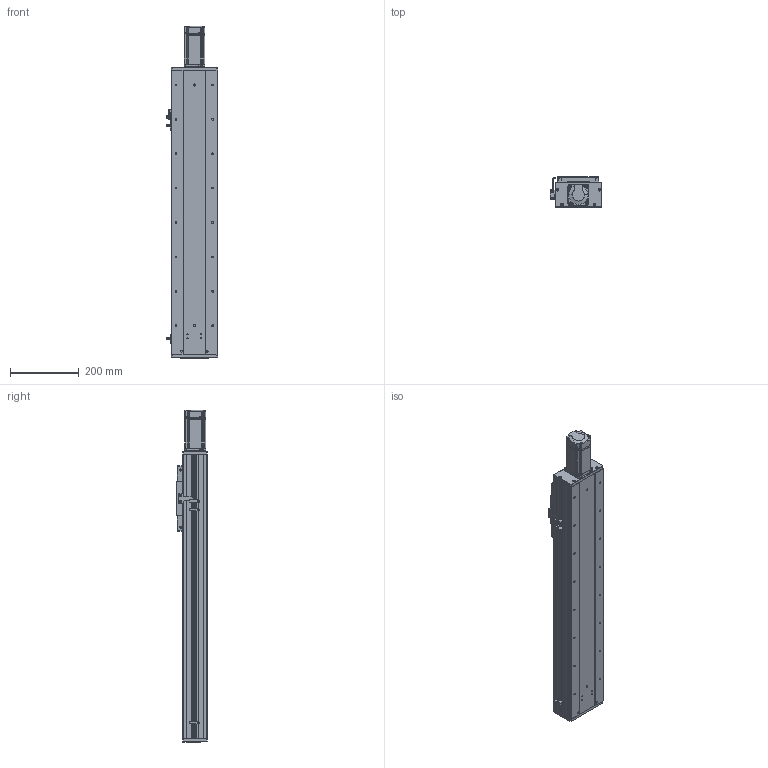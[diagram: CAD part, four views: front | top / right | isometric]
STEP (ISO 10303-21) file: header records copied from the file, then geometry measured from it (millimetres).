
FILE_DESCRIPTION (( 'STEP AP203' ), '1' );
FILE_NAME ('RY140F-L2020-300-MK.SLDASM_550.step', '2021-03-02T06:23:57', ( '盈信电脑' ), ( '东莞市道滘镇水果街19号' ), 'SwSTEP 2.0', 'SolidWorks 2012', '' );
FILE_SCHEMA (( 'CONFIG_CONTROL_DESIGN' ));
Length unit declared in the file: millimetre
Products named in the file (18): RY140F-300-MK眻蟀倰第奻裔啣_550; RY140F-300-MK眻蟀倰第菁釱_550; RY140F-L2020-300-MK.SLDASM_550; 侐源滅袉蝶; 滅袉蝶18-10; RY140F-672覜茼んえ; RY140F-詩湍揤え; 覜茼ん672; 侂狟400W侜督萇儂; RY140F-直连前盖板(铝件）; RY140F-后盖板(铝件）; 15; RY140F-詩湍幗謫粣; RY140F-滅鳥奻裔; RY140F-直连型材铝滑块(16丝杆); RY100F-詩湍揤踡謫; RY140F-300-MK眻蟀詩湍_550; RY140F-直连型材铝滑块连接座
Assembly tree (22 placements, depth 3):
  RY140F-L2020-300-MK.SLDASM_550
    RY140F-300-MK眻蟀倰第菁釱_550
    RY140F-300-MK眻蟀倰第奻裔啣_550  x2
    RY140F-300-MK眻蟀詩湍_550
    RY140F-直连型材铝滑块连接座
    RY140F-滅鳥奻裔
    RY140F-詩湍幗謫粣
    RY100F-詩湍揤踡謫
    RY140F-直连型材铝滑块(16丝杆)
    RY140F-直连前盖板(铝件）
    RY140F-后盖板(铝件）
    侂狟400W侜督萇儂
      15
    覜茼ん672  x3
    RY140F-672覜茼んえ
    RY140F-詩湍揤え  x2
    滅袉蝶18-10
    侐源滅袉蝶  x2
Bounding box: 148.7 x 91 x 965.5 mm (x, y, z)
Volume: 3422805.5 mm3; surface area: 1168253.4 mm2
Topology: 21 solids, 21 shells, 1928 faces, 5309 edges, 3410 vertices
Faces by surface type: cylinder 874, plane 854, cone 178, bspline 18, torus 4
Entity records: 55910 total; most frequent: CARTESIAN_POINT 11247, DIRECTION 9096, ORIENTED_EDGE 8766, EDGE_CURVE 4383, AXIS2_PLACEMENT_3D 3247, VERTEX_POINT 2878, LINE 2602, VECTOR 2602
